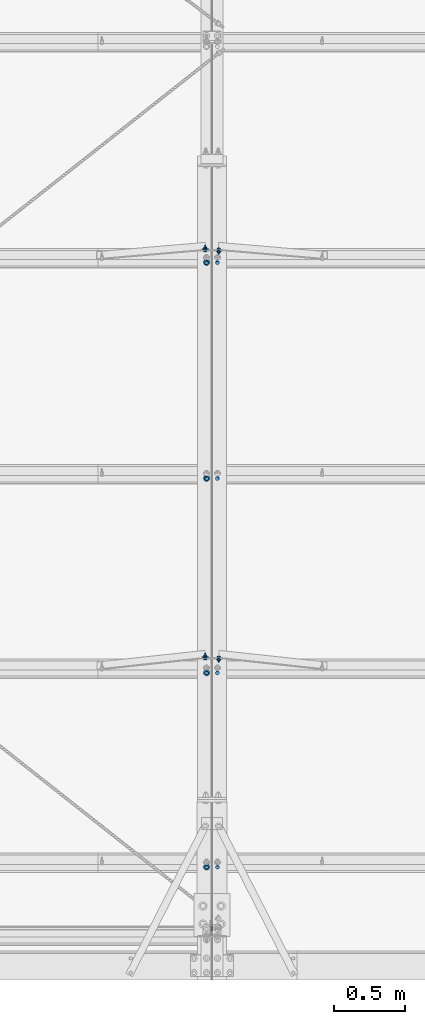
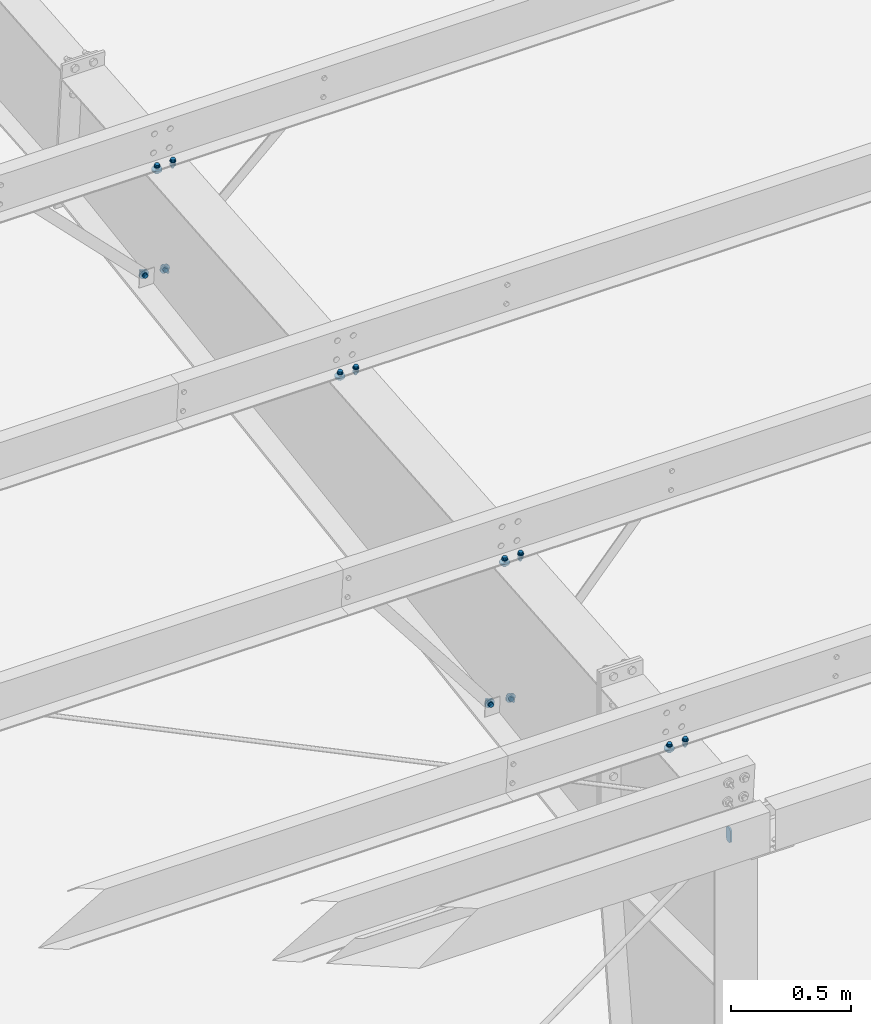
# One storey, part 126 of 185: 17 mechanical fasteners, 10 elements without a shape of their own.
"""IFC2X3 building model written with IfcOpenShell, lengths in millimetres."""

from ifc_helpers import new_model, si_unit, frame, frame_2d, origin_with_axes, origin_2d_with_axis, place, context, subcontext, project, spatial, polyline, circle_curve, parameter, trimmed, segment, composite_curve, circle, outline, extrude, source, transform, mapped, material, type_object, element, aggregate, save


model = new_model("IFC2X3")

# Units and contexts
model_context = context("Model", 3, precision=1e-05, world=origin_with_axes())
body_context = subcontext(model_context, "Body", "Model", "MODEL_VIEW")
ifc_project = project(units=[si_unit("LENGTHUNIT", "METRE", prefix="MILLI"), si_unit("AREAUNIT", "SQUARE_METRE"), si_unit("VOLUMEUNIT", "CUBIC_METRE"), si_unit("MASSUNIT", "GRAM", prefix="KILO"), si_unit("TIMEUNIT", "SECOND"), si_unit("PLANEANGLEUNIT", "RADIAN"), si_unit("SOLIDANGLEUNIT", "STERADIAN"), si_unit("THERMODYNAMICTEMPERATUREUNIT", "DEGREE_CELSIUS"), si_unit("LUMINOUSINTENSITYUNIT", "LUMEN")], contexts=[model_context])

# Site, building, storey
site_placement = place(None, origin_with_axes())
site = spatial("IfcSite", under=ifc_project, at=site_placement, Name="Undefined", CompositionType="ELEMENT")
building_placement = place(site_placement, origin_with_axes())
building = spatial("IfcBuilding", under=site, at=building_placement, Name="Undefined", CompositionType="ELEMENT")
storey_placement = place(building_placement, origin_with_axes())
storey = spatial("IfcBuildingStorey", under=building, at=storey_placement, Name="Undefined", CompositionType="ELEMENT", Elevation=0.0)

# Assembly, mechanical fastener
assembly_1_placement = place(storey_placement, origin_with_axes())
assembly_1 = element("IfcElementAssembly", 1, at=assembly_1_placement, inside=storey, Name="Steel Assembly", AssemblyPlace="NOTDEFINED", PredefinedType="RIGID_FRAME")
ifc_material_1 = material(Name="Undefined")
discrete_accessory_type = type_object("IfcDiscreteAccessoryType", Name="Bolt assembly")
shared_shape_1 = source(origin_with_axes(), body_context, "Body", "SweptSolid", [
    extrude(circle(Radius=7.14374971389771, at=origin_2d_with_axis()), frame((0.0, -1.59000001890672, 0.0), z_axis=(0.0, 1.0, 0.0), x_axis=(1.0, 0.0, 0.0)), (0.0, 0.0, 1.0), 1.7),
    extrude(outline(polyline([(10.9985221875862, 0.0), (5.4992610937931, 9.52499961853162), (-5.4992610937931, 9.52499961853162), (-10.9985221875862, 0.0), (-5.4992610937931, -9.52499961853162), (5.4992610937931, -9.52499961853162), (10.9985221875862, 0.0)])), frame((0.0, -15.0837496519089, 0.0), z_axis=(0.0, 1.0, 0.0), x_axis=(1.0, 0.0, 0.0)), (0.0, 0.0, 1.0), 9.5),
    extrude(circle(Radius=6.34999990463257, at=origin_2d_with_axis()), frame((0.0, -5.5587500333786, 0.0), z_axis=(0.0, 1.0, 0.0), x_axis=(1.0, 0.0, 0.0)), (0.0, 0.0, 1.0), 38.1),
    extrude(circle(Radius=13.4937496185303, at=origin_2d_with_axis()), frame((0.0, -5.5587500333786, 0.0), z_axis=(0.0, 1.0, 0.0), x_axis=(1.0, 0.0, 0.0)), (0.0, 0.0, 1.0), 4.0),
    extrude(circle(Radius=22.2250003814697, at=origin_2d_with_axis()), frame((0.0, 0.0, 0.0), z_axis=(0.0, 1.0, 0.0), x_axis=(1.0, 0.0, 0.0)), (0.0, 0.0, 1.0), 7.9),
    extrude(outline(polyline([(12.8316099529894, 0.0), (6.4158049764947, 11.1125001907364), (-6.4158049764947, 11.1125001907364), (-12.8316099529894, 0.0), (-6.4158049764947, -11.1125001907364), (6.4158049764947, -11.1125001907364), (12.8316099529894, 0.0)])), frame((0.0, 7.93750000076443, 0.0), z_axis=(0.0, 1.0, 0.0), x_axis=(1.0, 0.0, 0.0)), (0.0, 0.0, 1.0), 12.3),
])
mechanical_fastener_1_placement = place(assembly_1_placement, frame((14906.5257244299, 5133.84450725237, 5717.36204916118), z_axis=(0.719276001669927, 0.0576937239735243, -0.692324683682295), x_axis=(0.69472443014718, -0.0597326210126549, 0.716791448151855)))
mechanical_fastener_1 = element("IfcMechanicalFastener", 2, at=mechanical_fastener_1_placement, type_object=discrete_accessory_type, material=ifc_material_1, Name="Bolt assembly", NominalDiameter=12.6999998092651, NominalLength=38.0999984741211, context=body_context, shape_type="MappedRepresentation", body=[
    mapped(shared_shape_1, transform((0.0, 0.0, 0.0))),
])
aggregate(assembly_1, [mechanical_fastener_1])

assembly_2_placement = place(storey_placement, origin_with_axes())
assembly_2 = element("IfcElementAssembly", 3, at=assembly_2_placement, inside=storey, Name="Steel Assembly", AssemblyPlace="NOTDEFINED", PredefinedType="RIGID_FRAME")
mechanical_fastener_2_placement = place(assembly_2_placement, frame((14906.4401058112, 2264.36236561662, 5283.50648644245), z_axis=(0.793088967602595, 0.0505834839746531, -0.60700181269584), x_axis=(0.609105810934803, -0.0658624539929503, 0.790349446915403)))
mechanical_fastener_2 = element("IfcMechanicalFastener", 4, at=mechanical_fastener_2_placement, type_object=discrete_accessory_type, material=ifc_material_1, Name="Bolt assembly", NominalDiameter=12.6999998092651, NominalLength=38.0999984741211, context=body_context, shape_type="MappedRepresentation", body=[
    mapped(shared_shape_1, transform((0.0, 0.0, 0.0))),
])
aggregate(assembly_2, [mechanical_fastener_2])

assembly_3_placement = place(storey_placement, origin_with_axes())
assembly_3 = element("IfcElementAssembly", 5, at=assembly_3_placement, inside=storey, Name="Steel Assembly", AssemblyPlace="NOTDEFINED", PredefinedType="RIGID_FRAME")
shared_shape_2 = source(origin_with_axes(), body_context, "Body", "SweptSolid", [
    extrude(circle(Radius=7.14374971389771, at=origin_2d_with_axis()), frame((0.0, 0.0, 0.0), z_axis=(0.0, 1.0, 0.0), x_axis=(1.0, 0.0, 0.0)), (0.0, 0.0, 1.0), 1.7),
    extrude(outline(polyline([(10.9985221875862, 0.0), (5.4992610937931, 9.52499961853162), (-5.4992610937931, 9.52499961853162), (-10.9985221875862, 0.0), (-5.4992610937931, -9.52499961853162), (5.4992610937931, -9.52499961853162), (10.9985221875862, 0.0)])), frame((0.0, -13.4937496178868, 0.0), z_axis=(0.0, 1.0, 0.0), x_axis=(1.0, 0.0, 0.0)), (0.0, 0.0, 1.0), 9.5),
    extrude(circle(Radius=6.34999990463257, at=origin_2d_with_axis()), frame((0.0, -3.96874999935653, 0.0), z_axis=(0.0, 1.0, 0.0), x_axis=(1.0, 0.0, 0.0)), (0.0, 0.0, 1.0), 38.1),
    extrude(circle(Radius=13.4937496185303, at=origin_2d_with_axis()), frame((0.0, -3.96874999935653, 0.0), z_axis=(0.0, 1.0, 0.0), x_axis=(1.0, 0.0, 0.0)), (0.0, 0.0, 1.0), 4.0),
    extrude(circle(Radius=22.2250003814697, at=origin_2d_with_axis()), frame((0.0, 1.5900000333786, 0.0), z_axis=(0.0, 1.0, 0.0), x_axis=(1.0, 0.0, 0.0)), (0.0, 0.0, 1.0), 7.9),
    extrude(outline(polyline([(12.8316099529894, 0.0), (6.4158049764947, 11.1125001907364), (-6.4158049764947, 11.1125001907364), (-12.8316099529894, 0.0), (-6.4158049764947, -11.1125001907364), (6.4158049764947, -11.1125001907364), (12.8316099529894, 0.0)])), frame((0.0, 9.5275000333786, 0.0), z_axis=(0.0, 1.0, 0.0), x_axis=(1.0, 0.0, 0.0)), (0.0, 0.0, 1.0), 12.3),
])
mechanical_fastener_3_placement = place(assembly_3_placement, frame((14811.4742755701, 5133.84450725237, 5717.36204916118), z_axis=(-0.719276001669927, 0.0576937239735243, -0.692324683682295), x_axis=(-0.69472443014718, -0.0597326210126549, 0.716791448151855)))
mechanical_fastener_3 = element("IfcMechanicalFastener", 6, at=mechanical_fastener_3_placement, type_object=discrete_accessory_type, material=ifc_material_1, Name="Bolt assembly", NominalDiameter=12.6999998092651, NominalLength=38.0999984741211, context=body_context, shape_type="MappedRepresentation", body=[
    mapped(shared_shape_2, transform((0.0, 0.0, 0.0))),
])
aggregate(assembly_3, [mechanical_fastener_3])

assembly_4_placement = place(storey_placement, origin_with_axes())
assembly_4 = element("IfcElementAssembly", 7, at=assembly_4_placement, inside=storey, Name="Steel Assembly", AssemblyPlace="NOTDEFINED", PredefinedType="RIGID_FRAME")
mechanical_fastener_4_placement = place(assembly_4_placement, frame((14811.5598941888, 2264.36236561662, 5283.50648644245), z_axis=(-0.793088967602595, 0.0505834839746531, -0.60700181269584), x_axis=(-0.609105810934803, -0.0658624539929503, 0.790349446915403)))
mechanical_fastener_4 = element("IfcMechanicalFastener", 8, at=mechanical_fastener_4_placement, type_object=discrete_accessory_type, material=ifc_material_1, Name="Bolt assembly", NominalDiameter=12.6999998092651, NominalLength=38.0999984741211, context=body_context, shape_type="MappedRepresentation", body=[
    mapped(shared_shape_2, transform((0.0, 0.0, 0.0))),
])
aggregate(assembly_4, [mechanical_fastener_4])

# Assembly, mechanical fasteners
assembly_5_placement = place(storey_placement, origin_with_axes())
assembly_5 = element("IfcElementAssembly", 9, at=assembly_5_placement, inside=storey, Name="Steel Assembly", AssemblyPlace="NOTDEFINED", PredefinedType="RIGID_FRAME")
ifc_material_2 = material(Name="7990")
shared_shape_3 = source(origin_with_axes(), body_context, "Body", "SweptSolid", [
    extrude(circle(Radius=7.14374971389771, at=origin_2d_with_axis()), frame((0.0, -3.41600000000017, 0.0), z_axis=(0.0, 1.0, 0.0), x_axis=(1.0, 0.0, 0.0)), (0.0, 0.0, 1.0), 3.5),
    extrude(circle(Radius=11.4299998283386, at=origin_2d_with_axis()), frame((0.0, 0.0, 0.0), z_axis=(0.0, 1.0, 0.0), x_axis=(1.0, 0.0, 0.0)), (0.0, 0.0, 1.0), 4.2),
    extrude(outline(polyline([(12.171698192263, 0.0), (6.08584909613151, 10.5409998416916), (-6.08584909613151, 10.5409998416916), (-12.171698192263, 0.0), (-6.08584909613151, -10.5409998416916), (6.08584909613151, -10.5409998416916), (12.171698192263, 0.0)])), frame((0.0, 4.1909999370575, 0.0), z_axis=(0.0, 1.0, 0.0), x_axis=(1.0, 0.0, 0.0)), (0.0, 0.0, 1.0), 8.4),
])
mechanical_fastener_5_placement = place(assembly_5_placement, frame((14812.169, 5133.90423987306, 5716.64525771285), z_axis=(0.921635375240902, 0.0322263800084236, -0.386716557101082), x_axis=(-0.388056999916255, 0.0765376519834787, -0.9184518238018)))
mechanical_fastener_5 = element("IfcMechanicalFastener", 10, at=mechanical_fastener_5_placement, type_object=discrete_accessory_type, material=ifc_material_2, Name="Bolt assembly", NominalDiameter=12.6999998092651, NominalLength=38.0999984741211, context=body_context, shape_type="MappedRepresentation", body=[
    mapped(shared_shape_3, transform((0.0, 0.0, 0.0))),
])
mechanical_fastener_6_placement = place(assembly_5_placement, frame((14812.169, 2264.42822807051, 5282.71613699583), z_axis=(0.921635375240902, 0.0322263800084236, -0.386716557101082), x_axis=(-0.388056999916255, 0.0765376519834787, -0.9184518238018)))
mechanical_fastener_6 = element("IfcMechanicalFastener", 11, at=mechanical_fastener_6_placement, type_object=discrete_accessory_type, material=ifc_material_2, Name="Bolt assembly", NominalDiameter=12.6999998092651, NominalLength=38.0999984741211, context=body_context, shape_type="MappedRepresentation", body=[
    mapped(shared_shape_3, transform((0.0, 0.0, 0.0))),
])
shared_shape_4 = source(origin_with_axes(), body_context, "Body", "SweptSolid", [
    extrude(circle(Radius=7.14374971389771, at=origin_2d_with_axis()), frame((0.0, 0.0, 0.0), z_axis=(0.0, 1.0, 0.0), x_axis=(1.0, 0.0, 0.0)), (0.0, 0.0, 1.0), 3.5),
    extrude(circle(Radius=11.4299998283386, at=origin_2d_with_axis()), frame((0.0, 3.41600000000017, 0.0), z_axis=(0.0, 1.0, 0.0), x_axis=(1.0, 0.0, 0.0)), (0.0, 0.0, 1.0), 4.2),
    extrude(outline(polyline([(12.171698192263, 0.0), (6.08584909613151, 10.5409998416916), (-6.08584909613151, 10.5409998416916), (-12.171698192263, 0.0), (-6.08584909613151, -10.5409998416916), (6.08584909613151, -10.5409998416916), (12.171698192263, 0.0)])), frame((0.0, 7.60699993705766, 0.0), z_axis=(0.0, 1.0, 0.0), x_axis=(1.0, 0.0, 0.0)), (0.0, 0.0, 1.0), 8.4),
])
mechanical_fastener_7_placement = place(assembly_5_placement, frame((14905.831, 5133.90423987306, 5716.64525771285), z_axis=(-0.921635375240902, 0.0322263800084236, -0.386716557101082), x_axis=(0.388056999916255, 0.0765376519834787, -0.9184518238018)))
mechanical_fastener_7 = element("IfcMechanicalFastener", 12, at=mechanical_fastener_7_placement, type_object=discrete_accessory_type, material=ifc_material_2, Name="Bolt assembly", NominalDiameter=12.6999998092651, NominalLength=38.0999984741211, context=body_context, shape_type="MappedRepresentation", body=[
    mapped(shared_shape_4, transform((0.0, 0.0, 0.0))),
])
mechanical_fastener_8_placement = place(assembly_5_placement, frame((14905.831, 2264.42822807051, 5282.71613699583), z_axis=(-0.921635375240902, 0.0322263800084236, -0.386716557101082), x_axis=(0.388056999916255, 0.0765376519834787, -0.9184518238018)))
mechanical_fastener_8 = element("IfcMechanicalFastener", 13, at=mechanical_fastener_8_placement, type_object=discrete_accessory_type, material=ifc_material_2, Name="Bolt assembly", NominalDiameter=12.6999998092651, NominalLength=38.0999984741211, context=body_context, shape_type="MappedRepresentation", body=[
    mapped(shared_shape_4, transform((0.0, 0.0, 0.0))),
])
aggregate(assembly_5, [mechanical_fastener_7, mechanical_fastener_5, mechanical_fastener_8, mechanical_fastener_6])

# Assembly, mechanical fastener
assembly_6_placement = place(storey_placement, origin_with_axes())
assembly_6 = element("IfcElementAssembly", 14, at=assembly_6_placement, inside=storey, Name="Steel Assembly", AssemblyPlace="NOTDEFINED", PredefinedType="RIGID_FRAME")
shared_shape_5 = source(origin_with_axes(), body_context, "Body", "SweptSolid", [
    extrude(outline(composite_curve([segment(polyline([(-23.8125, 17.4624996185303), (23.8125, 17.4624996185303)]), True, "CONTINUOUS"), segment(trimmed(circle_curve(frame_2d((23.8125, 4.76249980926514), x_axis=(0.0, 1.0)), 12.7), [parameter(0.0)], [parameter(4.71238898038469)], False, "PARAMETER"), True, "CONTINUOUS"), segment(polyline([(36.5124998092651, 4.76249980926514), (36.5124998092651, -4.76249980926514)]), True, "CONTINUOUS"), segment(trimmed(circle_curve(frame_2d((23.8125, -4.76249980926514), x_axis=(1.0, 0.0)), 12.7), [parameter(0.0)], [parameter(4.71238898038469)], False, "PARAMETER"), True, "CONTINUOUS"), segment(polyline([(23.8125, -17.4624996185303), (-23.8125, -17.4624996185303)]), True, "CONTINUOUS"), segment(trimmed(circle_curve(frame_2d((-23.8125, -4.76249980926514), x_axis=(0.0, -1.0)), 12.7), [parameter(0.0)], [parameter(4.71238898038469)], False, "PARAMETER"), True, "CONTINUOUS"), segment(polyline([(-36.5124998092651, -4.76249980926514), (-36.5124998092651, 4.76249980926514)]), True, "CONTINUOUS"), segment(trimmed(circle_curve(frame_2d((-23.8125, 4.76249980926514), x_axis=(-1.0, 0.0)), 12.7), [parameter(0.0)], [parameter(4.71238898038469)], False, "PARAMETER"), True, "DISCONTINUOUS")], self_intersect=False)), frame((0.0, -3.96874999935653, 0.0), z_axis=(0.0, 1.0, 0.0), x_axis=(1.0, 0.0, 0.0)), (0.0, 0.0, 1.0), 8.0),
])
mechanical_fastener_9_placement = place(assembly_6_placement, frame((14859.0, 363.473999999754, 5757.77423576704), z_axis=(0.0, 1.0, 0.0), x_axis=(0.0, 0.0, -1.0)))
mechanical_fastener_9 = element("IfcMechanicalFastener", 15, at=mechanical_fastener_9_placement, type_object=discrete_accessory_type, material=ifc_material_1, Name="Bolt assembly", NominalDiameter=25.3999996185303, NominalLength=31.75, context=body_context, shape_type="MappedRepresentation", body=[
    mapped(shared_shape_5, transform((0.0, 0.0, 0.0))),
])
aggregate(assembly_6, [mechanical_fastener_9])

# Assembly, mechanical fasteners
assembly_7_placement = place(storey_placement, origin_with_axes())
assembly_7 = element("IfcElementAssembly", 16, at=assembly_7_placement, inside=storey, Name="Steel Assembly", AssemblyPlace="NOTDEFINED", PredefinedType="RIGID_FRAME")
shared_shape_6 = source(origin_with_axes(), body_context, "Body", "SweptSolid", [
    extrude(circle(Radius=7.14374971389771, at=origin_2d_with_axis()), frame((0.0, -0.1, 0.0), z_axis=(0.0, 1.0, 0.0), x_axis=(1.0, 0.0, 0.0)), (0.0, 0.0, 1.0), 8.1),
    extrude(circle(Radius=7.14374971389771, at=origin_2d_with_axis()), frame((0.0, -3.08000006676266, 0.0), z_axis=(0.0, 1.0, 0.0), x_axis=(1.0, 0.0, 0.0)), (0.0, 0.0, 1.0), 3.2),
    extrude(circle(Radius=7.14374971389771, at=origin_2d_with_axis()), frame((0.0, -3.08000006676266, 0.0), z_axis=(0.0, 1.0, 0.0), x_axis=(1.0, 0.0, 0.0)), (0.0, 0.0, 1.0), 3.2),
    extrude(outline(polyline([(10.9985221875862, 0.0), (5.4992610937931, 9.52499961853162), (-5.4992610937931, 9.52499961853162), (-10.9985221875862, 0.0), (-5.4992610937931, -9.52499961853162), (5.4992610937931, -9.52499961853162), (10.9985221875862, 0.0)])), frame((0.0, -16.6737496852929, 0.0), z_axis=(0.0, 1.0, 0.0), x_axis=(1.0, 0.0, 0.0)), (0.0, 0.0, 1.0), 9.5),
    extrude(circle(Radius=6.34999990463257, at=origin_2d_with_axis()), frame((0.0, -7.14875006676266, 0.0), z_axis=(0.0, 1.0, 0.0), x_axis=(1.0, 0.0, 0.0)), (0.0, 0.0, 1.0), 38.1),
    extrude(circle(Radius=13.4937496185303, at=origin_2d_with_axis()), frame((0.0, -7.14875006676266, 0.0), z_axis=(0.0, 1.0, 0.0), x_axis=(1.0, 0.0, 0.0)), (0.0, 0.0, 1.0), 4.0),
    extrude(circle(Radius=22.2250003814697, at=origin_2d_with_axis()), frame((0.0, 7.95019856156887, 0.0), z_axis=(0.0, 1.0, 0.0), x_axis=(1.0, 0.0, 0.0)), (0.0, 0.0, 1.0), 7.9),
    extrude(outline(polyline([(12.8316099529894, 0.0), (6.4158049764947, 11.1125001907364), (-6.4158049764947, 11.1125001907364), (-12.8316099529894, 0.0), (-6.4158049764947, -11.1125001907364), (6.4158049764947, -11.1125001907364), (12.8316099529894, 0.0)])), frame((0.0, 15.8876985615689, 0.0), z_axis=(0.0, 1.0, 0.0), x_axis=(1.0, 0.0, 0.0)), (0.0, 0.0, 1.0), 12.3),
])
mechanical_fastener_10_placement = place(assembly_7_placement, frame((14820.9, 793.549517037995, 5958.22479168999), z_axis=(1.0, 0.0, 0.0), x_axis=(0.0, -0.996545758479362, -0.0830454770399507)))
mechanical_fastener_10 = element("IfcMechanicalFastener", 17, at=mechanical_fastener_10_placement, type_object=discrete_accessory_type, material=ifc_material_1, Name="Bolt assembly", NominalDiameter=12.6999998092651, NominalLength=38.0999984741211, context=body_context, shape_type="MappedRepresentation", body=[
    mapped(shared_shape_6, transform((0.0, 0.0, 0.0))),
])
shared_shape_7 = source(origin_with_axes(), body_context, "Body", "SweptSolid", [
    extrude(circle(Radius=7.14374971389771, at=origin_2d_with_axis()), frame((0.0, -0.1, 0.0), z_axis=(0.0, 1.0, 0.0), x_axis=(1.0, 0.0, 0.0)), (0.0, 0.0, 1.0), 8.1),
    extrude(circle(Radius=7.14374971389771, at=origin_2d_with_axis()), frame((0.0, -3.08000006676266, 0.0), z_axis=(0.0, 1.0, 0.0), x_axis=(1.0, 0.0, 0.0)), (0.0, 0.0, 1.0), 3.2),
    extrude(circle(Radius=7.14374971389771, at=origin_2d_with_axis()), frame((0.0, -3.08000006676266, 0.0), z_axis=(0.0, 1.0, 0.0), x_axis=(1.0, 0.0, 0.0)), (0.0, 0.0, 1.0), 3.2),
    extrude(outline(polyline([(10.9985221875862, 0.0), (5.4992610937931, 9.52499961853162), (-5.4992610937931, 9.52499961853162), (-10.9985221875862, 0.0), (-5.4992610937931, -9.52499961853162), (5.4992610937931, -9.52499961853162), (10.9985221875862, 0.0)])), frame((0.0, -16.6737496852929, 0.0), z_axis=(0.0, 1.0, 0.0), x_axis=(1.0, 0.0, 0.0)), (0.0, 0.0, 1.0), 9.5),
    extrude(circle(Radius=6.34999990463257, at=origin_2d_with_axis()), frame((0.0, -7.14875006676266, 0.0), z_axis=(0.0, 1.0, 0.0), x_axis=(1.0, 0.0, 0.0)), (0.0, 0.0, 1.0), 38.1),
    extrude(circle(Radius=13.4937496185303, at=origin_2d_with_axis()), frame((0.0, -7.14875006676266, 0.0), z_axis=(0.0, 1.0, 0.0), x_axis=(1.0, 0.0, 0.0)), (0.0, 0.0, 1.0), 4.0),
    extrude(outline(polyline([(12.8316099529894, 0.0), (6.4158049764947, 11.1125001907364), (-6.4158049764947, 11.1125001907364), (-12.8316099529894, 0.0), (-6.4158049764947, -11.1125001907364), (6.4158049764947, -11.1125001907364), (12.8316099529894, 0.0)])), frame((0.0, 7.95019856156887, 0.0), z_axis=(0.0, 1.0, 0.0), x_axis=(1.0, 0.0, 0.0)), (0.0, 0.0, 1.0), 12.3),
])
mechanical_fastener_11_placement = place(assembly_7_placement, frame((14897.1, 793.549517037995, 5958.22479168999), z_axis=(1.0, 0.0, 0.0), x_axis=(0.0, -0.996545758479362, -0.0830454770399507)))
mechanical_fastener_11 = element("IfcMechanicalFastener", 18, at=mechanical_fastener_11_placement, type_object=discrete_accessory_type, material=ifc_material_1, Name="Bolt assembly", NominalDiameter=12.6999998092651, NominalLength=38.0999984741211, context=body_context, shape_type="MappedRepresentation", body=[
    mapped(shared_shape_7, transform((0.0, 0.0, 0.0))),
])
aggregate(assembly_7, [mechanical_fastener_10, mechanical_fastener_11])

# Assembly, mechanical fastener
assembly_8_placement = place(storey_placement, origin_with_axes())
assembly_8 = element("IfcElementAssembly", 19, at=assembly_8_placement, inside=storey, Name="Steel Assembly", AssemblyPlace="NOTDEFINED", PredefinedType="RIGID_FRAME")
shared_shape_8 = source(origin_with_axes(), body_context, "Body", "SweptSolid", [
    extrude(circle(Radius=7.14374971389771, at=origin_2d_with_axis()), frame((0.0, -0.0897199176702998, 0.0), z_axis=(0.0, 1.0, 0.0), x_axis=(1.0, 0.0, 0.0)), (0.0, 0.0, 1.0), 8.0),
    extrude(circle(Radius=7.14374971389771, at=origin_2d_with_axis()), frame((0.0, -3.08000006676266, 0.0), z_axis=(0.0, 1.0, 0.0), x_axis=(1.0, 0.0, 0.0)), (0.0, 0.0, 1.0), 3.2),
    extrude(circle(Radius=7.14374971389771, at=origin_2d_with_axis()), frame((0.0, -3.08000006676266, 0.0), z_axis=(0.0, 1.0, 0.0), x_axis=(1.0, 0.0, 0.0)), (0.0, 0.0, 1.0), 3.2),
    extrude(outline(polyline([(10.9985221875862, 0.0), (5.4992610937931, 9.52499961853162), (-5.4992610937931, 9.52499961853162), (-10.9985221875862, 0.0), (-5.4992610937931, -9.52499961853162), (5.4992610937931, -9.52499961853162), (10.9985221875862, 0.0)])), frame((0.0, -16.6737496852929, 0.0), z_axis=(0.0, 1.0, 0.0), x_axis=(1.0, 0.0, 0.0)), (0.0, 0.0, 1.0), 9.5),
    extrude(circle(Radius=6.34999990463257, at=origin_2d_with_axis()), frame((0.0, -7.14875006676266, 0.0), z_axis=(0.0, 1.0, 0.0), x_axis=(1.0, 0.0, 0.0)), (0.0, 0.0, 1.0), 38.1),
    extrude(circle(Radius=13.4937496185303, at=origin_2d_with_axis()), frame((0.0, -7.14875006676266, 0.0), z_axis=(0.0, 1.0, 0.0), x_axis=(1.0, 0.0, 0.0)), (0.0, 0.0, 1.0), 4.0),
    extrude(circle(Radius=22.2250003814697, at=origin_2d_with_axis()), frame((0.0, 7.88428008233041, 0.0), z_axis=(0.0, 1.0, 0.0), x_axis=(1.0, 0.0, 0.0)), (0.0, 0.0, 1.0), 7.9),
    extrude(outline(polyline([(12.8316099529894, 0.0), (6.4158049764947, 11.1125001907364), (-6.4158049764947, 11.1125001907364), (-12.8316099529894, 0.0), (-6.4158049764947, -11.1125001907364), (6.4158049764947, -11.1125001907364), (12.8316099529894, 0.0)])), frame((0.0, 15.8217800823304, 0.0), z_axis=(0.0, 1.0, 0.0), x_axis=(1.0, 0.0, 0.0)), (0.0, 0.0, 1.0), 12.3),
])
mechanical_fastener_12_placement = place(assembly_8_placement, frame((14820.9, 5046.00957656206, 6312.59646403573), z_axis=(1.0, 0.0, 0.0), x_axis=(0.0, -0.996545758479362, -0.0830454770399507)))
mechanical_fastener_12 = element("IfcMechanicalFastener", 20, at=mechanical_fastener_12_placement, type_object=discrete_accessory_type, material=ifc_material_1, Name="Bolt assembly", NominalDiameter=12.6999998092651, NominalLength=38.0999984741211, context=body_context, shape_type="MappedRepresentation", body=[
    mapped(shared_shape_8, transform((0.0, 0.0, 0.0))),
])

assembly_9_placement = place(storey_placement, origin_with_axes())
assembly_9 = element("IfcElementAssembly", 21, at=assembly_9_placement, inside=storey, Name="Steel Assembly", AssemblyPlace="NOTDEFINED", PredefinedType="RIGID_FRAME")
mechanical_fastener_13_placement = place(assembly_9_placement, frame((14820.9, 3527.27384101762, 6186.03515248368), z_axis=(1.0, 0.0, 0.0), x_axis=(0.0, -0.996545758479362, -0.0830454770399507)))
mechanical_fastener_13 = element("IfcMechanicalFastener", 22, at=mechanical_fastener_13_placement, type_object=discrete_accessory_type, material=ifc_material_1, Name="Bolt assembly", NominalDiameter=12.6999998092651, NominalLength=38.0999984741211, context=body_context, shape_type="MappedRepresentation", body=[
    mapped(shared_shape_8, transform((0.0, 0.0, 0.0))),
])

assembly_10_placement = place(storey_placement, origin_with_axes())
assembly_10 = element("IfcElementAssembly", 23, at=assembly_10_placement, inside=storey, Name="Steel Assembly", AssemblyPlace="NOTDEFINED", PredefinedType="RIGID_FRAME")
mechanical_fastener_14_placement = place(assembly_10_placement, frame((14820.9, 2160.41167902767, 6072.12997208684), z_axis=(1.0, 0.0, 0.0), x_axis=(0.0, -0.996545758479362, -0.0830454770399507)))
mechanical_fastener_14 = element("IfcMechanicalFastener", 24, at=mechanical_fastener_14_placement, type_object=discrete_accessory_type, material=ifc_material_1, Name="Bolt assembly", NominalDiameter=12.6999998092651, NominalLength=38.0999984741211, context=body_context, shape_type="MappedRepresentation", body=[
    mapped(shared_shape_8, transform((0.0, 0.0, 0.0))),
])

# Mechanical fastener
shared_shape_9 = source(origin_with_axes(), body_context, "Body", "SweptSolid", [
    extrude(circle(Radius=7.14374971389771, at=origin_2d_with_axis()), frame((0.0, -0.0897199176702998, 0.0), z_axis=(0.0, 1.0, 0.0), x_axis=(1.0, 0.0, 0.0)), (0.0, 0.0, 1.0), 8.0),
    extrude(circle(Radius=7.14374971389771, at=origin_2d_with_axis()), frame((0.0, -3.08000006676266, 0.0), z_axis=(0.0, 1.0, 0.0), x_axis=(1.0, 0.0, 0.0)), (0.0, 0.0, 1.0), 3.2),
    extrude(circle(Radius=7.14374971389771, at=origin_2d_with_axis()), frame((0.0, -3.08000006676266, 0.0), z_axis=(0.0, 1.0, 0.0), x_axis=(1.0, 0.0, 0.0)), (0.0, 0.0, 1.0), 3.2),
    extrude(outline(polyline([(10.9985221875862, 0.0), (5.4992610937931, 9.52499961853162), (-5.4992610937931, 9.52499961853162), (-10.9985221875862, 0.0), (-5.4992610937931, -9.52499961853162), (5.4992610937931, -9.52499961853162), (10.9985221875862, 0.0)])), frame((0.0, -16.6737496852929, 0.0), z_axis=(0.0, 1.0, 0.0), x_axis=(1.0, 0.0, 0.0)), (0.0, 0.0, 1.0), 9.5),
    extrude(circle(Radius=6.34999990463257, at=origin_2d_with_axis()), frame((0.0, -7.14875006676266, 0.0), z_axis=(0.0, 1.0, 0.0), x_axis=(1.0, 0.0, 0.0)), (0.0, 0.0, 1.0), 38.1),
    extrude(circle(Radius=13.4937496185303, at=origin_2d_with_axis()), frame((0.0, -7.14875006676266, 0.0), z_axis=(0.0, 1.0, 0.0), x_axis=(1.0, 0.0, 0.0)), (0.0, 0.0, 1.0), 4.0),
    extrude(outline(polyline([(12.8316099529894, 0.0), (6.4158049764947, 11.1125001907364), (-6.4158049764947, 11.1125001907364), (-12.8316099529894, 0.0), (-6.4158049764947, -11.1125001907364), (6.4158049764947, -11.1125001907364), (12.8316099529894, 0.0)])), frame((0.0, 7.88428008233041, 0.0), z_axis=(0.0, 1.0, 0.0), x_axis=(1.0, 0.0, 0.0)), (0.0, 0.0, 1.0), 12.3),
])
mechanical_fastener_15_placement = place(assembly_8_placement, frame((14897.1, 5046.00957656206, 6312.59646403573), z_axis=(1.0, 0.0, 0.0), x_axis=(0.0, -0.996545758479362, -0.0830454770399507)))
mechanical_fastener_15 = element("IfcMechanicalFastener", 25, at=mechanical_fastener_15_placement, type_object=discrete_accessory_type, material=ifc_material_1, Name="Bolt assembly", NominalDiameter=12.6999998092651, NominalLength=38.0999984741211, context=body_context, shape_type="MappedRepresentation", body=[
    mapped(shared_shape_9, transform((0.0, 0.0, 0.0))),
])

aggregate(assembly_8, [mechanical_fastener_12, mechanical_fastener_15])

mechanical_fastener_16_placement = place(assembly_9_placement, frame((14897.1, 3527.27384101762, 6186.03515248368), z_axis=(1.0, 0.0, 0.0), x_axis=(0.0, -0.996545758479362, -0.0830454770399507)))
mechanical_fastener_16 = element("IfcMechanicalFastener", 26, at=mechanical_fastener_16_placement, type_object=discrete_accessory_type, material=ifc_material_1, Name="Bolt assembly", NominalDiameter=12.6999998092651, NominalLength=38.0999984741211, context=body_context, shape_type="MappedRepresentation", body=[
    mapped(shared_shape_9, transform((0.0, 0.0, 0.0))),
])

aggregate(assembly_9, [mechanical_fastener_13, mechanical_fastener_16])

mechanical_fastener_17_placement = place(assembly_10_placement, frame((14897.1, 2160.41167902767, 6072.12997208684), z_axis=(1.0, 0.0, 0.0), x_axis=(0.0, -0.996545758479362, -0.0830454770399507)))
mechanical_fastener_17 = element("IfcMechanicalFastener", 27, at=mechanical_fastener_17_placement, type_object=discrete_accessory_type, material=ifc_material_1, Name="Bolt assembly", NominalDiameter=12.6999998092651, NominalLength=38.0999984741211, context=body_context, shape_type="MappedRepresentation", body=[
    mapped(shared_shape_9, transform((0.0, 0.0, 0.0))),
])

aggregate(assembly_10, [mechanical_fastener_14, mechanical_fastener_17])

save(model, "model.ifc")
